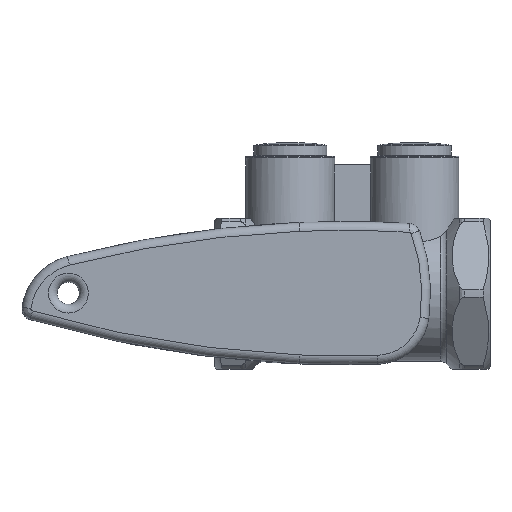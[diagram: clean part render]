
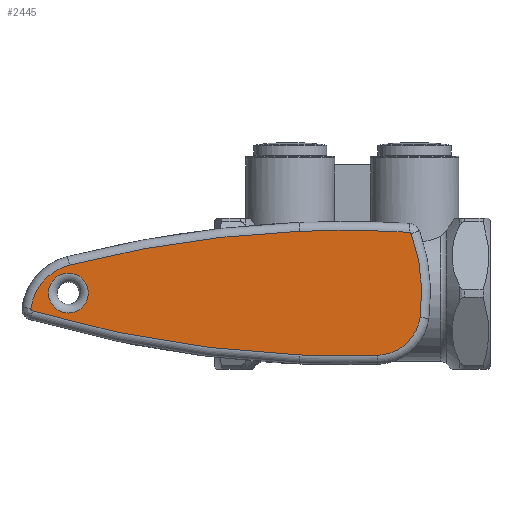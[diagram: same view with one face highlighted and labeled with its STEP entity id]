
A CAD part, top view. The second image highlights one B-rep face of the part: STEP entity #2445.
In plain terms, the highlighted planar face has unit normal (0, 0, 1).
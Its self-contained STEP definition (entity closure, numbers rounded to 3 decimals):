
#146=FACE_BOUND('',#430,.T.);
#177=PLANE('',#2744);
#282=FACE_OUTER_BOUND('',#429,.T.);
#429=EDGE_LOOP('',(#2099,#2100,#2101,#2102,#2103,#2104,#2105,#2106,#2107));
#430=EDGE_LOOP('',(#2108));
#620=CIRCLE('',#2741,4.498);
#623=CIRCLE('',#2745,252.306);
#624=CIRCLE('',#2746,11.669);
#625=CIRCLE('',#2747,0.5);
#626=CIRCLE('',#2748,252.163);
#627=CIRCLE('',#2749,251.926);
#628=CIRCLE('',#2750,9.993);
#629=CIRCLE('',#2751,38.627);
#630=CIRCLE('',#2752,0.5);
#631=CIRCLE('',#2753,251.926);
#1096=VERTEX_POINT('',#5242);
#1098=VERTEX_POINT('',#5248);
#1099=VERTEX_POINT('',#5249);
#1100=VERTEX_POINT('',#5251);
#1101=VERTEX_POINT('',#5253);
#1102=VERTEX_POINT('',#5255);
#1103=VERTEX_POINT('',#5257);
#1104=VERTEX_POINT('',#5259);
#1105=VERTEX_POINT('',#5261);
#1106=VERTEX_POINT('',#5263);
#1442=EDGE_CURVE('',#1096,#1096,#620,.T.);
#1445=EDGE_CURVE('',#1098,#1099,#623,.T.);
#1446=EDGE_CURVE('',#1100,#1098,#624,.T.);
#1447=EDGE_CURVE('',#1101,#1100,#625,.T.);
#1448=EDGE_CURVE('',#1102,#1101,#626,.T.);
#1449=EDGE_CURVE('',#1103,#1102,#627,.T.);
#1450=EDGE_CURVE('',#1104,#1103,#628,.T.);
#1451=EDGE_CURVE('',#1105,#1104,#629,.T.);
#1452=EDGE_CURVE('',#1106,#1105,#630,.T.);
#1453=EDGE_CURVE('',#1099,#1106,#631,.T.);
#2099=ORIENTED_EDGE('',*,*,#1445,.F.);
#2100=ORIENTED_EDGE('',*,*,#1446,.F.);
#2101=ORIENTED_EDGE('',*,*,#1447,.F.);
#2102=ORIENTED_EDGE('',*,*,#1448,.F.);
#2103=ORIENTED_EDGE('',*,*,#1449,.F.);
#2104=ORIENTED_EDGE('',*,*,#1450,.F.);
#2105=ORIENTED_EDGE('',*,*,#1451,.F.);
#2106=ORIENTED_EDGE('',*,*,#1452,.F.);
#2107=ORIENTED_EDGE('',*,*,#1453,.F.);
#2108=ORIENTED_EDGE('',*,*,#1442,.F.);
#2445=ADVANCED_FACE('',(#282,#146),#177,.T.);
#2741=AXIS2_PLACEMENT_3D('',#5243,#3365,#3366);
#2744=AXIS2_PLACEMENT_3D('',#5247,#3371,#3372);
#2745=AXIS2_PLACEMENT_3D('',#5250,#3373,#3374);
#2746=AXIS2_PLACEMENT_3D('',#5252,#3375,#3376);
#2747=AXIS2_PLACEMENT_3D('',#5254,#3377,#3378);
#2748=AXIS2_PLACEMENT_3D('',#5256,#3379,#3380);
#2749=AXIS2_PLACEMENT_3D('',#5258,#3381,#3382);
#2750=AXIS2_PLACEMENT_3D('',#5260,#3383,#3384);
#2751=AXIS2_PLACEMENT_3D('',#5262,#3385,#3386);
#2752=AXIS2_PLACEMENT_3D('',#5264,#3387,#3388);
#2753=AXIS2_PLACEMENT_3D('',#5265,#3389,#3390);
#3365=DIRECTION('center_axis',(0.,0.,1.));
#3366=DIRECTION('ref_axis',(-1.,0.,0.));
#3371=DIRECTION('center_axis',(0.,0.,1.));
#3372=DIRECTION('ref_axis',(1.,0.,0.));
#3373=DIRECTION('center_axis',(0.,0.,-1.));
#3374=DIRECTION('ref_axis',(-0.146,0.989,0.));
#3375=DIRECTION('center_axis',(0.,0.,-1.));
#3376=DIRECTION('ref_axis',(-0.748,0.664,0.));
#3377=DIRECTION('center_axis',(0.,0.,-1.));
#3378=DIRECTION('ref_axis',(-0.838,-0.546,0.));
#3379=DIRECTION('center_axis',(0.,0.,-1.));
#3380=DIRECTION('ref_axis',(-0.162,-0.987,0.));
#3381=DIRECTION('center_axis',(0.,0.,-1.));
#3382=DIRECTION('ref_axis',(-0.005,-1.,0.));
#3383=DIRECTION('center_axis',(0.,0.,-1.));
#3384=DIRECTION('ref_axis',(0.667,-0.745,0.));
#3385=DIRECTION('center_axis',(0.,0.,-1.));
#3386=DIRECTION('ref_axis',(0.994,0.106,0.));
#3387=DIRECTION('center_axis',(0.,0.,-1.));
#3388=DIRECTION('ref_axis',(0.595,0.804,0.));
#3389=DIRECTION('center_axis',(0.,0.,-1.));
#3390=DIRECTION('ref_axis',(0.009,1.,0.));
#5242=CARTESIAN_POINT('',(-59.493,0.,77.25));
#5243=CARTESIAN_POINT('Origin',(-63.991,0.,
77.25));
#5247=CARTESIAN_POINT('Origin',(-25.369,0.078,77.25));
#5248=CARTESIAN_POINT('',(-63.738,6.304,77.25));
#5249=CARTESIAN_POINT('',(-11.947,13.924,77.25));
#5250=CARTESIAN_POINT('Origin',(-1.313,-238.158,77.25));
#5251=CARTESIAN_POINT('',(-72.417,-3.479,77.25));
#5252=CARTESIAN_POINT('Origin',(-60.848,-5.001,77.25));
#5253=CARTESIAN_POINT('',(-72.061,-4.024,77.25));
#5254=CARTESIAN_POINT('Origin',(-71.921,-3.544,77.25));
#5255=CARTESIAN_POINT('',(-11.948,-13.924,77.25));
#5256=CARTESIAN_POINT('Origin',(-1.33,238.015,77.25));
#5257=CARTESIAN_POINT('',(5.645,-14.017,77.25));
#5258=CARTESIAN_POINT('Origin',(-1.826,237.798,77.25));
#5259=CARTESIAN_POINT('',(15.243,-5.433,77.25));
#5260=CARTESIAN_POINT('Origin',(5.35,-4.028,77.25));
#5261=CARTESIAN_POINT('',(13.237,13.377,77.25));
#5262=CARTESIAN_POINT('Origin',(-23.,0.,
77.25));
#5263=CARTESIAN_POINT('',(12.797,13.703,77.25));
#5264=CARTESIAN_POINT('Origin',(12.768,13.204,77.25));
#5265=CARTESIAN_POINT('Origin',(-1.826,-237.798,77.25));
